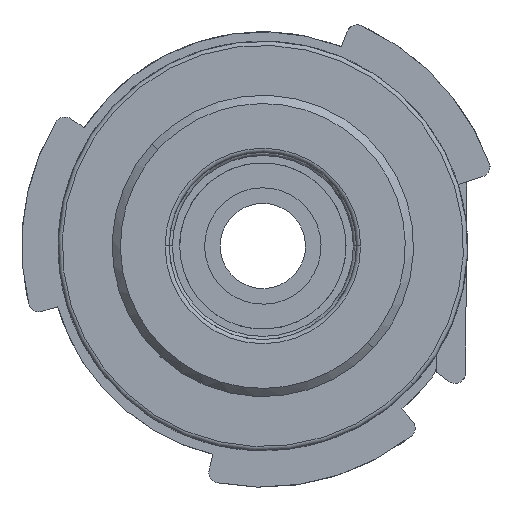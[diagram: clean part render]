
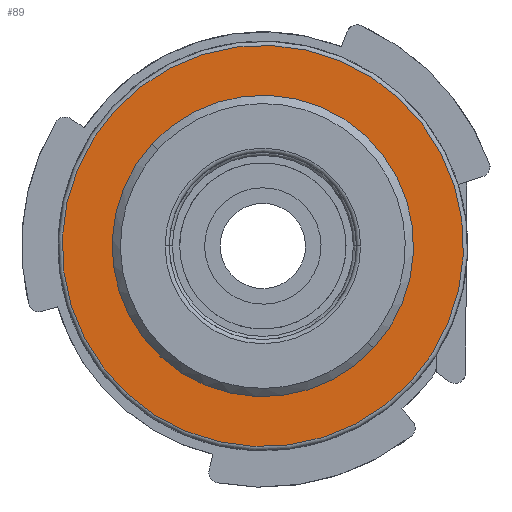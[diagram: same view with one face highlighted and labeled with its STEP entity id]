
A CAD part, front view. The second image highlights one B-rep face of the part: STEP entity #89.
In plain terms, the highlighted planar face has unit normal (0, -1, 0).
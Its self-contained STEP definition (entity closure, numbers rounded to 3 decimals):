
#35=AXIS2_PLACEMENT_3D('Plane Axis2P3D',#32,#33,#34) ;
#39=AXIS2_PLACEMENT_3D('Circle Axis2P3D',#37,#38,$) ;
#48=AXIS2_PLACEMENT_3D('Circle Axis2P3D',#46,#47,$) ;
#55=AXIS2_PLACEMENT_3D('Circle Axis2P3D',#53,#54,$) ;
#62=AXIS2_PLACEMENT_3D('Circle Axis2P3D',#60,#61,$) ;
#73=AXIS2_PLACEMENT_3D('Circle Axis2P3D',#71,#72,$) ;
#82=AXIS2_PLACEMENT_3D('Circle Axis2P3D',#80,#81,$) ;
#32=CARTESIAN_POINT('Axis2P3D Location',(0.,-380.805,-70.486)) ;
#37=CARTESIAN_POINT('Axis2P3D Location',(0.,-380.805,-70.486)) ;
#41=CARTESIAN_POINT('Vertex',(-7.11,-380.805,-63.961)) ;
#43=CARTESIAN_POINT('Vertex',(-6.525,-380.805,-77.596)) ;
#46=CARTESIAN_POINT('Axis2P3D Location',(0.,-380.805,-70.486)) ;
#50=CARTESIAN_POINT('Vertex',(7.11,-380.805,-77.011)) ;
#53=CARTESIAN_POINT('Axis2P3D Location',(0.,-380.805,-70.486)) ;
#57=CARTESIAN_POINT('Vertex',(6.525,-380.805,-63.377)) ;
#60=CARTESIAN_POINT('Axis2P3D Location',(0.,-380.805,-70.486)) ;
#71=CARTESIAN_POINT('Axis2P3D Location',(0.,-380.805,-70.486)) ;
#75=CARTESIAN_POINT('Vertex',(-5.341,-380.805,-65.584)) ;
#77=CARTESIAN_POINT('Vertex',(5.341,-380.805,-75.389)) ;
#80=CARTESIAN_POINT('Axis2P3D Location',(0.,-380.805,-70.486)) ;
#33=DIRECTION('Axis2P3D Direction',(0.,-1.,0.)) ;
#34=DIRECTION('Axis2P3D XDirection',(0.737,0.,-0.676)) ;
#38=DIRECTION('Axis2P3D Direction',(0.,-1.,0.)) ;
#47=DIRECTION('Axis2P3D Direction',(0.,-1.,0.)) ;
#54=DIRECTION('Axis2P3D Direction',(0.,-1.,0.)) ;
#61=DIRECTION('Axis2P3D Direction',(0.,-1.,0.)) ;
#72=DIRECTION('Axis2P3D Direction',(0.,-1.,0.)) ;
#81=DIRECTION('Axis2P3D Direction',(0.,-1.,0.)) ;
#66=ORIENTED_EDGE('',*,*,#45,.T.) ;
#67=ORIENTED_EDGE('',*,*,#52,.T.) ;
#68=ORIENTED_EDGE('',*,*,#59,.T.) ;
#69=ORIENTED_EDGE('',*,*,#64,.T.) ;
#86=ORIENTED_EDGE('',*,*,#79,.T.) ;
#87=ORIENTED_EDGE('',*,*,#84,.F.) ;
#88=FACE_BOUND('',#85,.T.) ;
#89=ADVANCED_FACE('\X2\987690E85BC65C01652F64915708\X0\.1\\\X2\96F64EF651E04F554F53\X0\',(#70,#88),#36,.T.) ;
#40=CIRCLE('generated circle',#39,9.65) ;
#49=CIRCLE('generated circle',#48,9.65) ;
#56=CIRCLE('generated circle',#55,9.65) ;
#63=CIRCLE('generated circle',#62,9.65) ;
#74=CIRCLE('generated circle',#73,7.25) ;
#83=CIRCLE('generated circle',#82,7.25) ;
#45=EDGE_CURVE('',#42,#44,#40,.T.) ;
#52=EDGE_CURVE('',#44,#51,#49,.T.) ;
#59=EDGE_CURVE('',#51,#58,#56,.T.) ;
#64=EDGE_CURVE('',#58,#42,#63,.T.) ;
#79=EDGE_CURVE('',#76,#78,#74,.F.) ;
#84=EDGE_CURVE('',#76,#78,#83,.T.) ;
#65=EDGE_LOOP('',(#66,#67,#68,#69)) ;
#85=EDGE_LOOP('',(#86,#87)) ;
#70=FACE_OUTER_BOUND('',#65,.T.) ;
#36=PLANE('Plane',#35) ;
#42=VERTEX_POINT('',#41) ;
#44=VERTEX_POINT('',#43) ;
#51=VERTEX_POINT('',#50) ;
#58=VERTEX_POINT('',#57) ;
#76=VERTEX_POINT('',#75) ;
#78=VERTEX_POINT('',#77) ;
